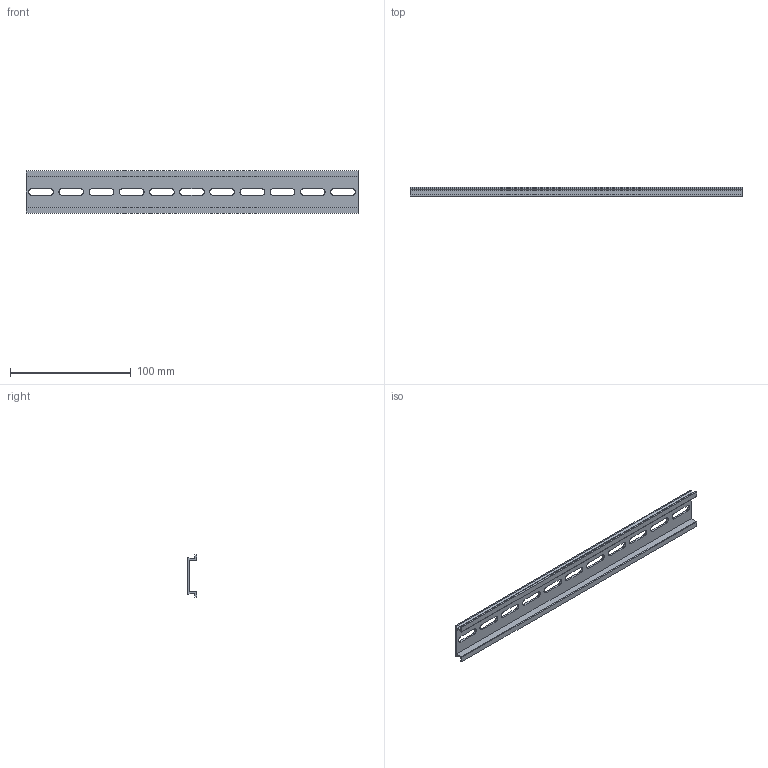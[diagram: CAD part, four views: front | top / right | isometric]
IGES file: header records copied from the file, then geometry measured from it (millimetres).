
Start section: ------------------------------------------------------------------------
Global section: file name: D:\ICADMX\tmp\trans3d_spg\CVICAD02.21224.DIN-RAIL275_7808.igs; native system: spGate; preprocessor: ver12.6.6; author: Unknown; organization: Unknown; date: 200901.142030; units: millimetre
Bounding box: 275 x 7.5 x 35 mm (x, y, z)
Surface area: 26012.9 mm2 (no closed solid volume)
Topology: 0 solids, 0 shells, 64 faces, 372 edges, 372 vertices
Faces by surface type: bspline 64
